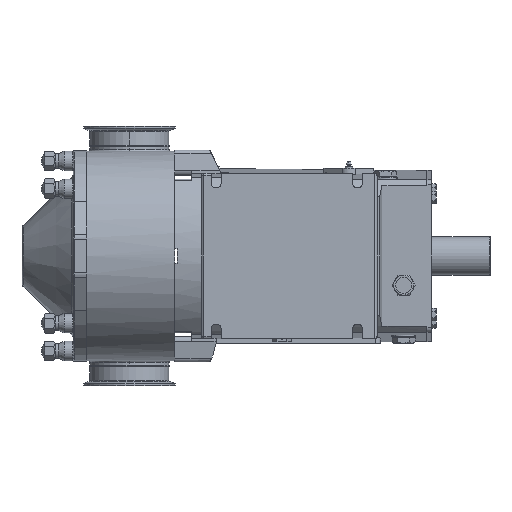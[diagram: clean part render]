
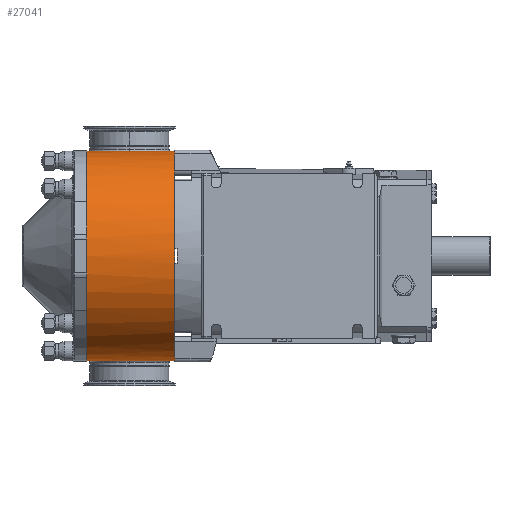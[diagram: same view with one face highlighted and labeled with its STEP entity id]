
A CAD part, front view. The second image highlights one B-rep face of the part: STEP entity #27041.
In plain terms, the highlighted cylindrical face has radius 136.652 mm (diameter 273.304 mm), a partial arc.
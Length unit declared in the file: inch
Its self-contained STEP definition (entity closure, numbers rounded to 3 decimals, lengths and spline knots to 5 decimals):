
#1960 = CARTESIAN_POINT ( 'NONE',  ( 0., -6.6587, 3.94441 ) ) ;
#11461 = VERTEX_POINT ( 'NONE', #29940 ) ;
#11465 = EDGE_CURVE ( 'NONE', #11466, #13871, #29988, .T. ) ;
#11466 = VERTEX_POINT ( 'NONE', #29984 ) ;
#11480 = EDGE_CURVE ( 'NONE', #11461, #11481, #30016, .T. ) ;
#11481 = VERTEX_POINT ( 'NONE', #30011 ) ;
#13871 = VERTEX_POINT ( 'NONE', #35618 ) ;
#26957 = EDGE_LOOP ( 'NONE', ( #27069, #27073, #27075, #27076, #27077, #27078, #27018, #27021, #27024, #27013 ) ) ;
#27012 = EDGE_CURVE ( 'NONE', #31478, #27023, #40665, .T. ) ;
#27013 = ORIENTED_EDGE ( 'NONE', *, *, #27014, .F. ) ;
#27014 = EDGE_CURVE ( 'NONE', #27072, #31478, #40637, .T. ) ;
#27018 = ORIENTED_EDGE ( 'NONE', *, *, #27019, .F. ) ;
#27019 = EDGE_CURVE ( 'NONE', #27020, #27080, #40615, .T. ) ;
#27020 = VERTEX_POINT ( 'NONE', #40744 ) ;
#27021 = ORIENTED_EDGE ( 'NONE', *, *, #27022, .F. ) ;
#27022 = EDGE_CURVE ( 'NONE', #27023, #27020, #40740, .T. ) ;
#27023 = VERTEX_POINT ( 'NONE', #40733 ) ;
#27024 = ORIENTED_EDGE ( 'NONE', *, *, #27012, .F. ) ;
#27037 = EDGE_CURVE ( 'NONE', #13871, #11481, #40678, .T. ) ;
#27041 = ADVANCED_FACE ( 'NONE', ( #40796 ), #40789, .T. ) ;
#27069 = ORIENTED_EDGE ( 'NONE', *, *, #27070, .F. ) ;
#27070 = EDGE_CURVE ( 'NONE', #27071, #27072, #40832, .T. ) ;
#27071 = VERTEX_POINT ( 'NONE', #40826 ) ;
#27072 = VERTEX_POINT ( 'NONE', #40825 ) ;
#27073 = ORIENTED_EDGE ( 'NONE', *, *, #27074, .F. ) ;
#27074 = EDGE_CURVE ( 'NONE', #11466, #27071, #40819, .T. ) ;
#27075 = ORIENTED_EDGE ( 'NONE', *, *, #11465, .T. ) ;
#27076 = ORIENTED_EDGE ( 'NONE', *, *, #27037, .T. ) ;
#27077 = ORIENTED_EDGE ( 'NONE', *, *, #11480, .F. ) ;
#27078 = ORIENTED_EDGE ( 'NONE', *, *, #27079, .F. ) ;
#27079 = EDGE_CURVE ( 'NONE', #27080, #11461, #40947, .T. ) ;
#27080 = VERTEX_POINT ( 'NONE', #40936 ) ;
#29936 = CARTESIAN_POINT ( 'NONE',  ( -4.504, -3., 0. ) ) ;
#29940 = CARTESIAN_POINT ( 'NONE',  ( 0., -3.65716, -5.33971 ) ) ;
#29984 = CARTESIAN_POINT ( 'NONE',  ( -4.504, -3., 5.38 ) ) ;
#29985 = DIRECTION ( 'NONE',  ( 0., 0., 1. ) ) ;
#29986 = DIRECTION ( 'NONE',  ( 1., 0., 0. ) ) ;
#29987 = AXIS2_PLACEMENT_3D ( 'NONE', #29936, #29986, #29985 ) ;
#29988 = CIRCLE ( 'NONE', #29987, 5.38 ) ;
#30011 = CARTESIAN_POINT ( 'NONE',  ( 0., -3., -5.38 ) ) ;
#30012 = DIRECTION ( 'NONE',  ( 0., 0., 1. ) ) ;
#30013 = DIRECTION ( 'NONE',  ( 1., 0., 0. ) ) ;
#30014 = CARTESIAN_POINT ( 'NONE',  ( 0., -3., 0. ) ) ;
#30015 = AXIS2_PLACEMENT_3D ( 'NONE', #30014, #30013, #30012 ) ;
#30016 = CIRCLE ( 'NONE', #30015, 5.38 ) ;
#31478 = VERTEX_POINT ( 'NONE', #1960 ) ;
#35618 = CARTESIAN_POINT ( 'NONE',  ( -4.504, -3., -5.38 ) ) ;
#40557 = CARTESIAN_POINT ( 'NONE',  ( 0., -3., 0. ) ) ;
#40609 = DIRECTION ( 'NONE',  ( 0., 0., 1. ) ) ;
#40610 = DIRECTION ( 'NONE',  ( 1., 0., 0. ) ) ;
#40612 = CARTESIAN_POINT ( 'NONE',  ( 0., -3., 0. ) ) ;
#40613 = AXIS2_PLACEMENT_3D ( 'NONE', #40612, #40610, #40609 ) ;
#40615 = CIRCLE ( 'NONE', #40613, 5.38 ) ;
#40629 = DIRECTION ( 'NONE',  ( 0., 0., 1. ) ) ;
#40631 = DIRECTION ( 'NONE',  ( 1., 0., 0. ) ) ;
#40633 = CARTESIAN_POINT ( 'NONE',  ( 0., -3., 0. ) ) ;
#40635 = AXIS2_PLACEMENT_3D ( 'NONE', #40633, #40631, #40629 ) ;
#40637 = CIRCLE ( 'NONE', #40635, 5.38 ) ;
#40640 = DIRECTION ( 'NONE',  ( 0., 0., 1. ) ) ;
#40642 = DIRECTION ( 'NONE',  ( 1., 0., 0. ) ) ;
#40644 = AXIS2_PLACEMENT_3D ( 'NONE', #40557, #40642, #40640 ) ;
#40665 = CIRCLE ( 'NONE', #40644, 5.38 ) ;
#40677 = CARTESIAN_POINT ( 'NONE',  ( -4.504, -3., -5.38 ) ) ;
#40678 = LINE ( 'NONE', #40677, #40807 ) ;
#40733 = CARTESIAN_POINT ( 'NONE',  ( 0., -8.36691, 0.375 ) ) ;
#40734 = DIRECTION ( 'NONE',  ( 0., 0., 1. ) ) ;
#40736 = DIRECTION ( 'NONE',  ( 1., 0., 0. ) ) ;
#40737 = CARTESIAN_POINT ( 'NONE',  ( 0., -3., 0. ) ) ;
#40739 = AXIS2_PLACEMENT_3D ( 'NONE', #40737, #40736, #40734 ) ;
#40740 = CIRCLE ( 'NONE', #40739, 5.38 ) ;
#40744 = CARTESIAN_POINT ( 'NONE',  ( 0., -8.36691, -0.375 ) ) ;
#40784 = DIRECTION ( 'NONE',  ( 0., 0., -1. ) ) ;
#40785 = DIRECTION ( 'NONE',  ( 1., 0., 0. ) ) ;
#40786 = CARTESIAN_POINT ( 'NONE',  ( -4.504, -3., 0. ) ) ;
#40788 = AXIS2_PLACEMENT_3D ( 'NONE', #40786, #40785, #40784 ) ;
#40789 = CYLINDRICAL_SURFACE ( 'NONE', #40788, 5.38 ) ;
#40796 = FACE_OUTER_BOUND ( 'NONE', #26957, .T. ) ;
#40806 = DIRECTION ( 'NONE',  ( 1., 0., 0. ) ) ;
#40807 = VECTOR ( 'NONE', #40806, 39.37008 ) ;
#40814 = DIRECTION ( 'NONE',  ( 1., 0., 0. ) ) ;
#40816 = VECTOR ( 'NONE', #40814, 39.37008 ) ;
#40818 = CARTESIAN_POINT ( 'NONE',  ( -4.504, -3., 5.38 ) ) ;
#40819 = LINE ( 'NONE', #40818, #40816 ) ;
#40825 = CARTESIAN_POINT ( 'NONE',  ( 0., -3.65716, 5.33971 ) ) ;
#40826 = CARTESIAN_POINT ( 'NONE',  ( 0., -3., 5.38 ) ) ;
#40827 = DIRECTION ( 'NONE',  ( 0., 0., 1. ) ) ;
#40828 = DIRECTION ( 'NONE',  ( 1., 0., 0. ) ) ;
#40830 = CARTESIAN_POINT ( 'NONE',  ( 0., -3., 0. ) ) ;
#40831 = AXIS2_PLACEMENT_3D ( 'NONE', #40830, #40828, #40827 ) ;
#40832 = CIRCLE ( 'NONE', #40831, 5.38 ) ;
#40936 = CARTESIAN_POINT ( 'NONE',  ( 0., -6.6587, -3.94441 ) ) ;
#40938 = DIRECTION ( 'NONE',  ( 0., 0., 1. ) ) ;
#40940 = DIRECTION ( 'NONE',  ( 1., 0., 0. ) ) ;
#40941 = CARTESIAN_POINT ( 'NONE',  ( 0., -3., 0. ) ) ;
#40942 = AXIS2_PLACEMENT_3D ( 'NONE', #40941, #40940, #40938 ) ;
#40947 = CIRCLE ( 'NONE', #40942, 5.38 ) ;
